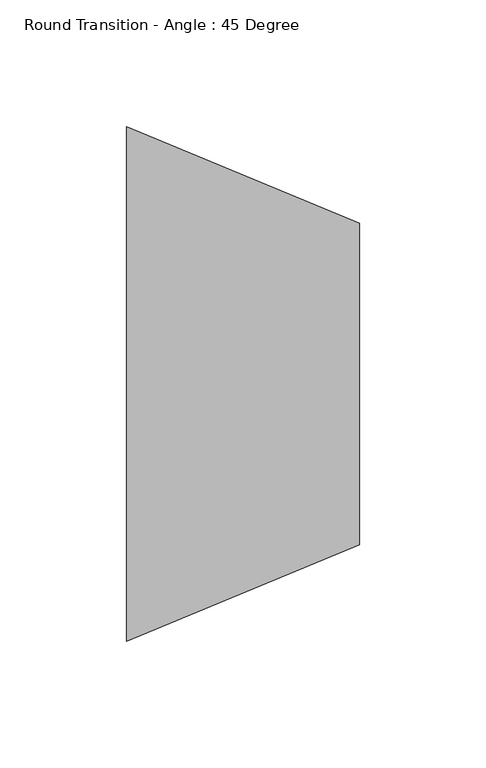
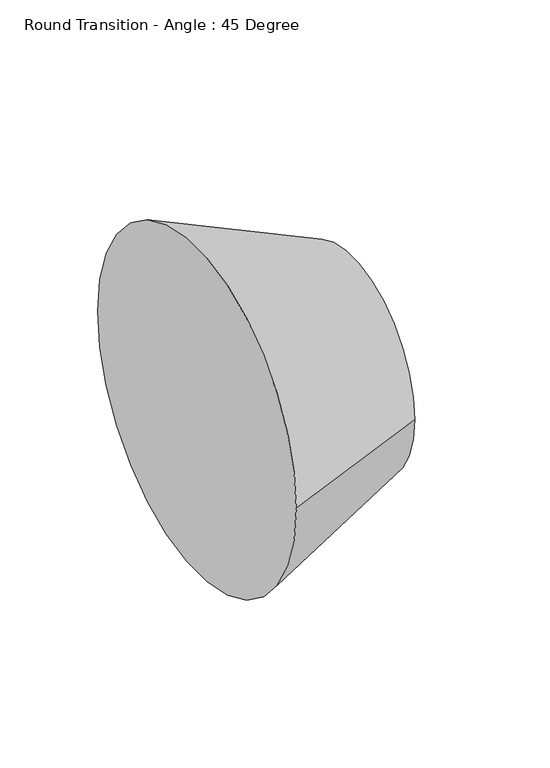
"""IFC4 building model written with IfcOpenShell, lengths in millimetres: duct fitting geometry, Round Transition - Angle : 45 Degree."""

from ifc_helpers import new_model, si_unit, frame, origin, place, context, project, spatial, polyline, circle_curve, source, transform, mapped, element, save
from ifc_brep_helpers import plane_surface, revolved_surface, advanced_brep


def round_transition_angle_45_degree_d7d10bec(model_context):
    return source(origin(), model_context, "Body", "AdvancedBrep", [
        advanced_brep(
        [(91.9815367, -63.5, 0.0), (91.9815367, 63.5, 0.0), (0.0, -101.6, 0.0), (0.0, 101.6, 0.0)],
        [
            (0, 1, circle_curve(frame((91.9815367, 0.0, 0.0), z_axis=(1.0, 0.0, 0.0), x_axis=(0.0, -1.0, 0.0)), 63.5)),
            (1, 0, circle_curve(frame((91.9815367, 0.0, 0.0), z_axis=(1.0, 0.0, 0.0), x_axis=(0.0, 1.0, 0.0)), 63.5)),
            (2, 3, circle_curve(frame((0.0, 0.0, 0.0), z_axis=(-1.0, 0.0, 0.0), x_axis=(0.0, 1.0, 0.0)), 101.6)),
            (3, 2, circle_curve(frame((0.0, 0.0, 0.0), z_axis=(-1.0, 0.0, 0.0), x_axis=(0.0, -1.0, 0.0)), 101.6)),
            (3, 1),
            (0, 2),
        ],
        [
            plane_surface(frame((91.9815367, 0.0, 0.0), z_axis=(1.0, 0.0, 0.0), x_axis=(0.0, 0.0, -1.0))),
            plane_surface(frame((0.0, 0.0, 0.0), z_axis=(-1.0, 0.0, 0.0), x_axis=(0.0, 0.0, -1.0))),
            revolved_surface(polyline([(91.98153669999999, -63.50000000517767, 0.0), (0.0, -101.6, 0.0)]), (245.2840979, 0.0, 0.0), (-1.0, 0.0, 0.0)),
            revolved_surface(polyline([(91.98153669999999, 63.50000000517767, 0.0), (0.0, 101.6, 0.0)]), (245.2840979, 0.0, 0.0), (-1.0, 0.0, 0.0)),
        ],
        [
            (0, [[1, 2]]),
            (1, [[3, 4]]),
            (2, [[-4, 5, -1, 6]]),
            (3, [[-3, -6, -2, -5]]),
        ],
    ),
    ])


if __name__ == "__main__":
    model = new_model("IFC4")
    model_context = context("Model", 3, world=origin())
    ifc_project = project(units=[si_unit("LENGTHUNIT", "METRE", prefix="MILLI")], contexts=[model_context])
    site = spatial("IfcSite", under=ifc_project)
    building = spatial("IfcBuilding", under=site)
    placement = place(None, origin())
    round_transition_angle_45_degree_shape = round_transition_angle_45_degree_d7d10bec(model_context)
    element("IfcDuctFitting", 1, ObjectType="Round Transition - Angle : 45 Degree", at=placement, inside=building, context=model_context, shape_type="MappedRepresentation", body=[
        mapped(round_transition_angle_45_degree_shape, transform((0.0, 0.0, 0.0), x_axis=(1.0, 0.0, 0.0), y_axis=(0.0, 1.0, 0.0), z_axis=(0.0, 0.0, 1.0))),
    ])
    save(model, "model.ifc")
